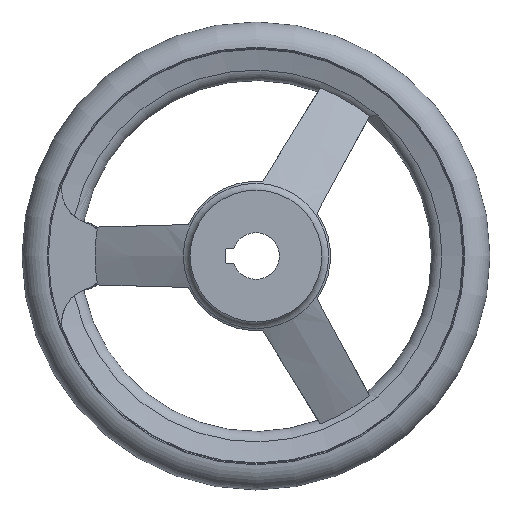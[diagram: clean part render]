
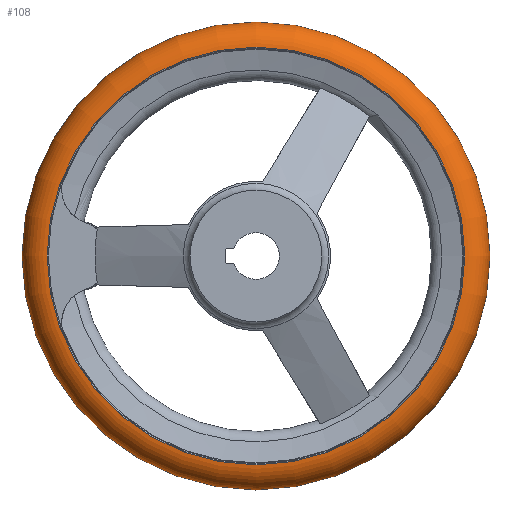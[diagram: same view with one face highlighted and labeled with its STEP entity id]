
A CAD part, left-side view. The second image highlights one B-rep face of the part: STEP entity #108.
In plain terms, the highlighted toroidal (fillet/blend) face has major radius 71 mm and minor radius 9 mm.
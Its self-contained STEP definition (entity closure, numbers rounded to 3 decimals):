
#108 = ADVANCED_FACE( '', ( #204, #205, #206 ), #207, .T. );
#204 = FACE_BOUND( '', #321, .T. );
#205 = FACE_OUTER_BOUND( '', #322, .T. );
#206 = FACE_OUTER_BOUND( '', #323, .T. );
#207 = TOROIDAL_SURFACE( '', #324, 71., 9. );
#321 = VERTEX_LOOP( '', #653 );
#322 = EDGE_LOOP( '', ( #654 ) );
#323 = EDGE_LOOP( '', ( #655 ) );
#324 = AXIS2_PLACEMENT_3D( '', #656, #657, #658 );
#653 = VERTEX_POINT( '', #832 );
#654 = ORIENTED_EDGE( '', *, *, #831, .T. );
#655 = ORIENTED_EDGE( '', *, *, #823, .F. );
#656 = CARTESIAN_POINT( '', ( 43., 0., 0. ) );
#657 = DIRECTION( '', ( 1., 0., 0. ) );
#658 = DIRECTION( '', ( 0., 1., 0. ) );
#823 = EDGE_CURVE( '', #994, #994, #995, .T. );
#831 = EDGE_CURVE( '', #1007, #1007, #1008, .T. );
#832 = CARTESIAN_POINT( '', ( 43., 80., 0. ) );
#994 = VERTEX_POINT( '', #1533 );
#995 = CIRCLE( '', #1534, 71.375 );
#1007 = VERTEX_POINT( '', #1546 );
#1008 = CIRCLE( '', #1547, 71.375 );
#1533 = CARTESIAN_POINT( '', ( 51.992, 71.375, 0. ) );
#1534 = AXIS2_PLACEMENT_3D( '', #1682, #1683, #1684 );
#1546 = CARTESIAN_POINT( '', ( 34.008, 71.375, 0. ) );
#1547 = AXIS2_PLACEMENT_3D( '', #1706, #1707, #1708 );
#1682 = CARTESIAN_POINT( '', ( 51.992, 0., 0. ) );
#1683 = DIRECTION( '', ( 1., 0., 0. ) );
#1684 = DIRECTION( '', ( 0., 1., 0. ) );
#1706 = CARTESIAN_POINT( '', ( 34.008, 0., 0. ) );
#1707 = DIRECTION( '', ( 1., 0., 0. ) );
#1708 = DIRECTION( '', ( 0., 1., 0. ) );
